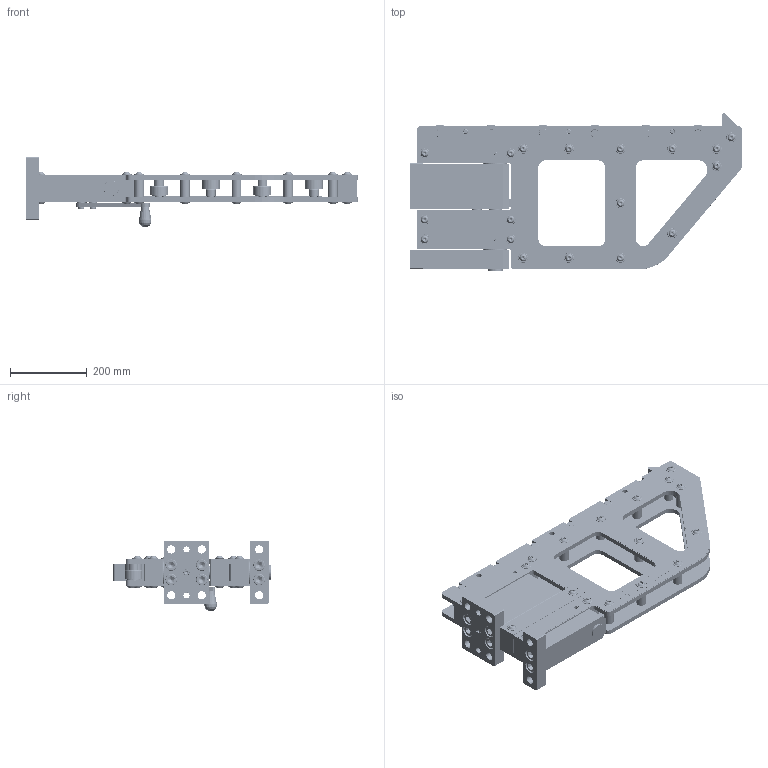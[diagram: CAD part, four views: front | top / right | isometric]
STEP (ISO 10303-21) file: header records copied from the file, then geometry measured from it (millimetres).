
FILE_DESCRIPTION(/* description */ ('CONSOLE PLATE RIGHT'),/* implementation_level */ '2;1');
FILE_NAME(/* name */ 'C:\Users\jaccow\AppData\Local\Temp\Cadac\NetworkPub\step\FB693-950.iam.stp',/* time_stamp */ '2017-12-14T13:13:44+01:00',/* author */ ('yue'),/* organization */ (''),/* preprocessor_version */ 'ST-DEVELOPER v16.1',/* originating_system */ 'Autodesk Inventor 2016',/* authorisation */ '');
FILE_SCHEMA (('AUTOMOTIVE_DESIGN { 1 0 10303 214 3 1 1 }'));
Products named in the file (40): FB697-101; FB698-186; CCE1230-028-9A; FB838-690; FB710-690; FB704-044; FB701-104; FB702-104; DQ1513-281; FB703-101; DQ1533-120; CAE1120-1081A; FB865-026; FB866-026; FB834-298; FB695-950; FB646-101; FB837-690; CCA2031-0281A; FB647-070; PP0327-070; CAA1635-0612C; PP0329-155; PP0137-155; CBA1025-0281B; FB649-061; PP0140-110; PP0305-108; PP0379-130; PP0380-108; FB650-950; PP0310-071; FB705-104; CCA819-0285C; FB707-101; FB713-690; CCA2033-0281A; FB712-950; FB709-104; FB693-950
Assembly tree (122 placements, depth 3):
  FB693-950
    FB695-950
      FB697-101  x2
      FB698-186  x11
      CCE1230-028-9A  x39
      FB838-690
      FB710-690  x2
      FB704-044
      FB701-104  x7
      FB702-104  x6
      DQ1513-281  x6
      FB703-101
      DQ1533-120  x3
      CAE1120-1081A  x3
      FB865-026
      FB866-026
      FB834-298
    FB650-950
      FB646-101
      FB837-690
      CCA2031-0281A  x4
      FB647-070
      PP0327-070
      CAA1635-0612C
      PP0329-155  x2
      PP0137-155
      CBA1025-0281B
      FB649-061
      PP0140-110
      PP0305-108  x2
      PP0379-130  x2
      PP0380-108  x2
    PP0310-071  x2
    FB705-104
    CCA819-0285C  x4
    FB712-950
      FB707-101
      FB713-690
      CCA2033-0281A  x2
      PP0329-155
    FB709-104
Bounding box: 868 x 411.67 x 184 mm (x, y, z)
Volume: 10617125 mm3; surface area: 2211959.1 mm2
Topology: 145 solids, 145 shells, 4949 faces, 11944 edges, 7762 vertices
Faces by surface type: plane 2711, bspline 1042, cylinder 536, cone 495, torus 164, sphere 1
Full cylindrical faces by diameter (mm): 1.541 x6, 3 x2, 3.4 x6, 6.466 x2, 6.647 x6, 6.648 x1, 8 x6, 8.376 x1, 8.4 x1, 9.42 x2, 10 x9, 10.1 x1, 10.106 x18, 10.5 x5, 11.5 x2, 12 x42, 13 x3, 13.5 x31, 15 x3, 16 x4, 16.1 x3, 17.294 x6, 19.95 x7, 20 x39, 20.1 x1, 21 x4, 21.5 x12, 22.425 x1, 24 x3, 25 x18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
Entity records: 109147 total; most frequent: CARTESIAN_POINT 32676, ORIENTED_EDGE 16422, DIRECTION 11901, EDGE_CURVE 8202, LINE 5619, VECTOR 5619, VERTEX_POINT 5589, EDGE_LOOP 4022
